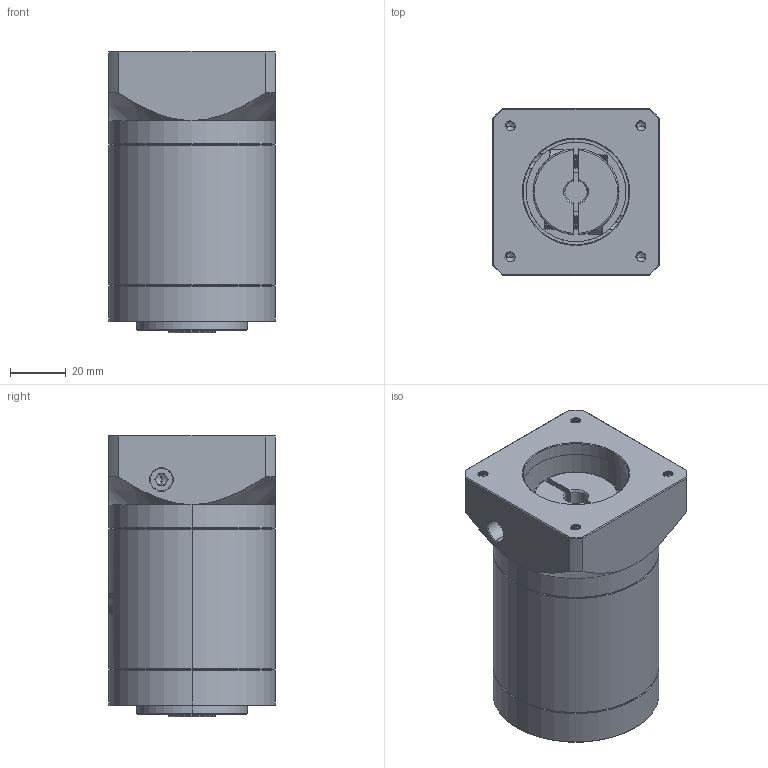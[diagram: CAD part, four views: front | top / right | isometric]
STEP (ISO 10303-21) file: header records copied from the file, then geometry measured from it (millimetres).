
FILE_DESCRIPTION (( 'STEP AP214' ), '1' );
FILE_NAME ('ZE60-K10-L2-8-38.1-47.14X47.14-M4.STEP', '2022-04-17T15:11:15', ( '' ), ( 'Microsoft' ), 'SwSTEP 2.0', 'SolidWorks 2016', '' );
FILE_SCHEMA (( 'AUTOMOTIVE_DESIGN' ));
Length unit declared in the file: millimetre
Products named in the file (1): ZE60-K10-L2-8-38.1-47.14X47.14-M4
Bounding box: 60 x 60 x 101.5 mm (x, y, z)
Volume: 261084 mm3; surface area: 44798.6 mm2
Topology: 6 solids, 6 shells, 1634 faces, 4454 edges, 2891 vertices
Faces by surface type: plane 725, cylinder 380, bspline 304, cone 207, torus 18
Entity records: 93449 total; most frequent: CARTESIAN_POINT 38273, ORIENTED_EDGE 8868, DIRECTION 6346, EDGE_CURVE 4434, VERTEX_POINT 2891, VECTOR 2234, LINE 2234, AXIS2_PLACEMENT_3D 2056
